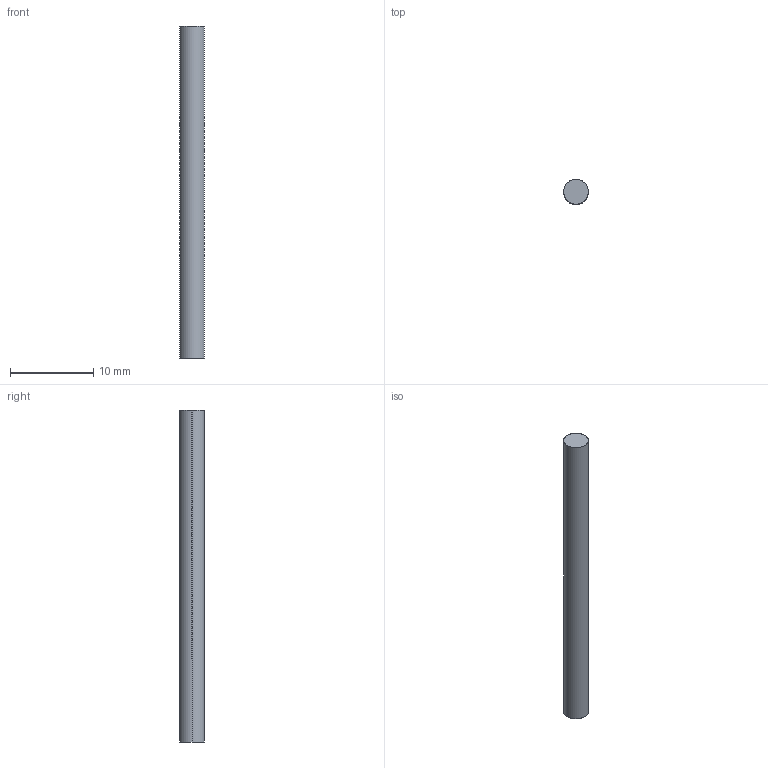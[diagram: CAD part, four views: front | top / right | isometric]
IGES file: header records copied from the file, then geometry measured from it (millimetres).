
Start section: SolidWorks IGES file using analytic representation for surfaces
Global section: file name: Z:\Mes documents\ATAO iges\Gamme CL\CL 420\420.030.00.IGS; native system: SolidWorks 2008; preprocessor: SolidWorks 2008; author: cbrechard; date: 110628.182728; units: millimetre
Bounding box: 3 x 3 x 40 mm (x, y, z)
Surface area: 391.1 mm2 (no closed solid volume)
Topology: 0 solids, 0 shells, 4 faces, 72 edges, 72 vertices
Faces by surface type: revolution 2, bspline 2
